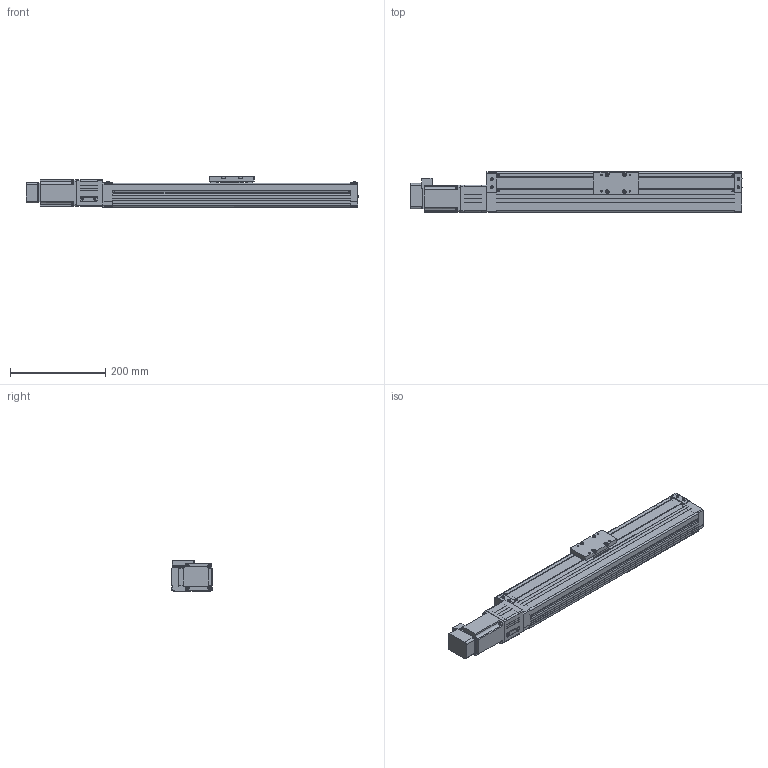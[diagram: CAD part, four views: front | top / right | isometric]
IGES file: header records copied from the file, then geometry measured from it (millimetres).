
Global section: file name: No Iges File Name specified; native system: AutoDesk Inventor R10; preprocessor: AutoDesk Inventor Iges Exporter R10; author: No Author specified; organization: No Organization specified; date: 20110702.133451; units: millimetre
Bounding box: 696.5 x 85 x 65 mm (x, y, z)
Surface area: 408853.2 mm2 (no closed solid volume)
Topology: 0 solids, 0 shells, 1091 faces, 6748 edges, 6720 vertices
Faces by surface type: bspline 1091
